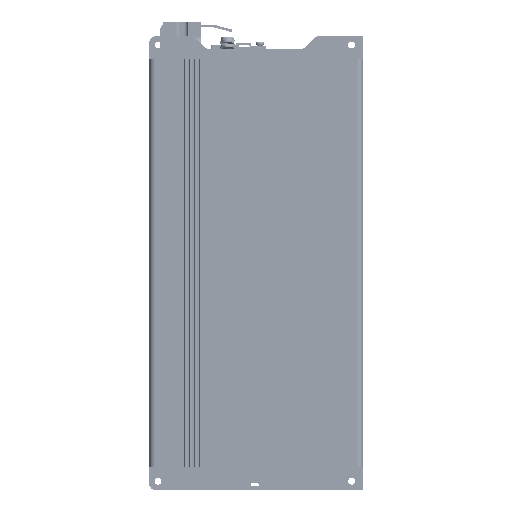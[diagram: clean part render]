
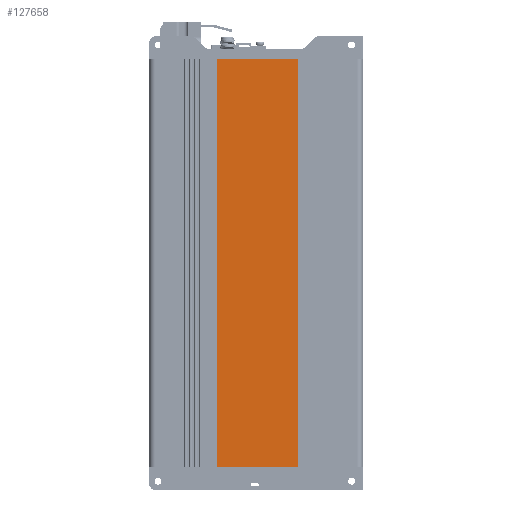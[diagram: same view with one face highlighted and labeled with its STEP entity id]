
A CAD part, left-side view. The second image highlights one B-rep face of the part: STEP entity #127658.
In plain terms, the highlighted planar face has unit normal (-1, 0, 0).
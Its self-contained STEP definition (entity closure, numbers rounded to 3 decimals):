
#13343=FACE_OUTER_BOUND('',#20231,.T.);
#20231=EDGE_LOOP('',(#88620,#88621,#88622,#88623));
#28859=LINE('',#210552,#39980);
#28860=LINE('',#210555,#39981);
#28861=LINE('',#210557,#39982);
#28862=LINE('',#210558,#39983);
#39980=VECTOR('',#152057,0.394);
#39981=VECTOR('',#152060,0.394);
#39982=VECTOR('',#152061,0.394);
#39983=VECTOR('',#152062,0.394);
#51530=VERTEX_POINT('',#210548);
#51531=VERTEX_POINT('',#210550);
#51532=VERTEX_POINT('',#210554);
#51533=VERTEX_POINT('',#210556);
#65578=EDGE_CURVE('',#51530,#51531,#28859,.T.);
#65579=EDGE_CURVE('',#51530,#51532,#28860,.T.);
#65580=EDGE_CURVE('',#51533,#51531,#28861,.T.);
#65581=EDGE_CURVE('',#51532,#51533,#28862,.T.);
#88620=ORIENTED_EDGE('',*,*,#65579,.F.);
#88621=ORIENTED_EDGE('',*,*,#65578,.T.);
#88622=ORIENTED_EDGE('',*,*,#65580,.F.);
#88623=ORIENTED_EDGE('',*,*,#65581,.F.);
#118176=PLANE('',#135782);
#127658=ADVANCED_FACE('',(#13343),#118176,.T.);
#135782=AXIS2_PLACEMENT_3D('',#210553,#152058,#152059);
#152057=DIRECTION('',(0.,0.,-1.));
#152058=DIRECTION('center_axis',(-1.,0.,
0.));
#152059=DIRECTION('ref_axis',(0.,1.,0.));
#152060=DIRECTION('',(0.,-1.,0.));
#152061=DIRECTION('',(0.,1.,0.));
#152062=DIRECTION('',(0.,0.,-1.));
#210548=CARTESIAN_POINT('',(-2.796,5.819,12.266));
#210550=CARTESIAN_POINT('',(-2.796,5.819,-0.529));
#210552=CARTESIAN_POINT('',(-2.796,5.819,12.266));
#210553=CARTESIAN_POINT('Origin',(-2.796,3.299,12.266));
#210554=CARTESIAN_POINT('',(-2.796,3.299,12.266));
#210555=CARTESIAN_POINT('',(-2.796,3.89,12.266));
#210556=CARTESIAN_POINT('',(-2.796,3.299,-0.529));
#210557=CARTESIAN_POINT('',(-2.796,2.295,-0.529));
#210558=CARTESIAN_POINT('',(-2.796,3.299,12.266));
